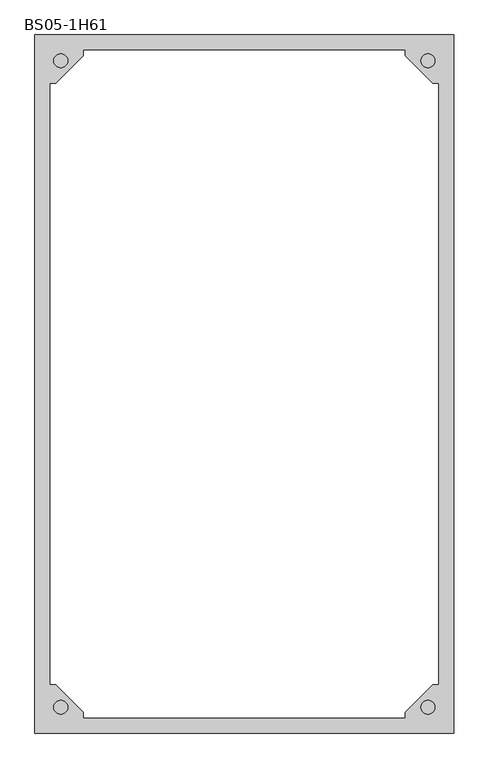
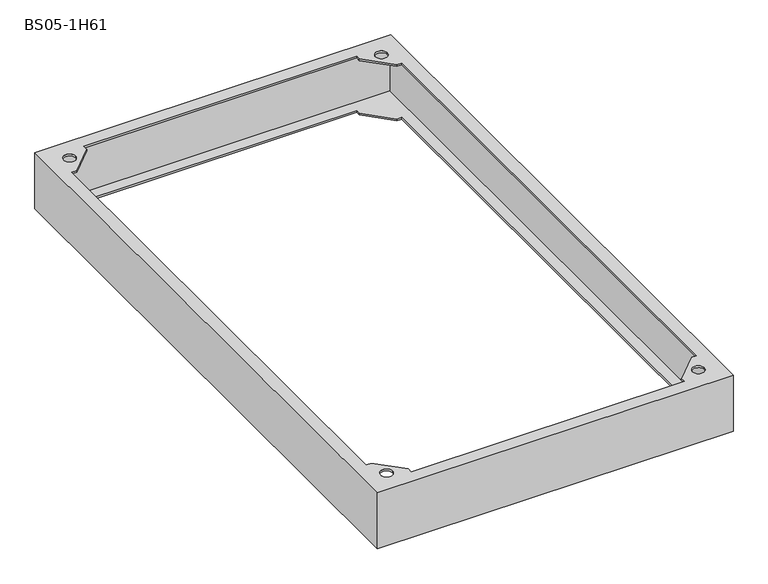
"""IFC4 building model written with IfcOpenShell, lengths in millimetres: proxy geometry, Цоколь для напольных шкафов : BS05-1H61."""

from ifc_helpers import new_model, si_unit, frame, origin, place, context, project, spatial, polyline, circle_curve, source, transform, mapped, element, save
from ifc_brep_helpers import plane_surface, revolved_surface, advanced_brep


def bs05_1h61_d823f380(model_context):
    return source(origin(), model_context, "Body", "AdvancedBrep", [
        advanced_brep(
        [(300.0, -500.0, 100.0), (300.0, -500.0, 97.0), (300.0, -500.0, 3.0), (300.0, -500.0, 0.0), (300.0, 500.0, 0.0), (300.0, 500.0, 3.0), (300.0, 500.0, 97.0), (300.0, 500.0, 100.0), (278.0, 430.0, 0.0), (278.0, -430.0, 0.0), (278.0, -430.0, 3.0), (278.0, 430.0, 3.0), (297.0, 497.0, 97.0), (297.0, 497.0, 3.0), (297.0, -497.0, 3.0), (297.0, -497.0, 97.0), (278.0, 430.0, 97.0), (278.0, -430.0, 97.0), (278.0, -430.0, 100.0), (278.0, 430.0, 100.0), (-300.0, -500.0, 100.0), (-300.0, -500.0, 97.0), (-300.0, -500.0, 3.0), (-300.0, -500.0, 0.0), (230.0, -478.0, 0.0), (-230.0, -478.0, 0.0), (-230.0, -478.0, 3.0), (230.0, -478.0, 3.0), (-297.0, -497.0, 3.0), (-297.0, -497.0, 97.0), (230.0, -478.0, 97.0), (-230.0, -478.0, 97.0), (-230.0, -478.0, 100.0), (230.0, -478.0, 100.0), (-300.0, 500.0, 100.0), (-300.0, 500.0, 97.0), (-300.0, 500.0, 3.0), (-300.0, 500.0, 0.0), (-278.0, -430.0, 0.0), (-278.0, 430.0, 0.0), (-278.0, 430.0, 3.0), (-278.0, -430.0, 3.0), (-297.0, 497.0, 3.0), (-297.0, 497.0, 97.0), (-278.0, -430.0, 97.0), (-278.0, 430.0, 97.0), (-278.0, 430.0, 100.0), (-278.0, -430.0, 100.0), (-230.0, -470.0, 100.0), (-270.0, -430.0, 100.0), (-270.0, 430.0, 100.0), (-230.0, 470.0, 100.0), (-230.0, 478.0, 100.0), (230.0, 478.0, 100.0), (230.0, 470.0, 100.0), (270.0, 430.0, 100.0), (270.0, -430.0, 100.0), (230.0, -470.0, 100.0), (-252.9289322, -462.9289322, 100.0), (-272.9289322, -462.9289322, 100.0), (272.9289322, -462.9289322, 100.0), (252.9289322, -462.9289322, 100.0), (-252.9289322, 462.9289322, 100.0), (-272.9289322, 462.9289322, 100.0), (272.9289322, 462.9289322, 100.0), (252.9289322, 462.9289322, 100.0), (270.0, 430.0, 0.0), (230.0, 470.0, 0.0), (230.0, 478.0, 0.0), (-230.0, 478.0, 0.0), (-230.0, 470.0, 0.0), (-270.0, 430.0, 0.0), (-270.0, -430.0, 0.0), (-230.0, -470.0, 0.0), (230.0, -470.0, 0.0), (270.0, -430.0, 0.0), (230.0, 478.0, 3.0), (-230.0, 478.0, 3.0), (270.0, -430.0, 3.0), (230.0, -470.0, 3.0), (-230.0, -470.0, 3.0), (-270.0, -430.0, 3.0), (-270.0, 430.0, 3.0), (-230.0, 470.0, 3.0), (230.0, 470.0, 3.0), (270.0, 430.0, 3.0), (-270.0, -430.0, 97.0), (-230.0, -470.0, 97.0), (230.0, -470.0, 97.0), (270.0, -430.0, 97.0), (270.0, 430.0, 97.0), (230.0, 470.0, 97.0), (230.0, 478.0, 97.0), (-230.0, 478.0, 97.0), (-230.0, 470.0, 97.0), (-270.0, 430.0, 97.0), (-252.9289322, -462.9289322, 97.0), (-272.9289322, -462.9289322, 97.0), (272.9289322, -462.9289322, 97.0), (252.9289322, -462.9289322, 97.0), (-252.9289322, 462.9289322, 97.0), (-272.9289322, 462.9289322, 97.0), (272.9289322, 462.9289322, 97.0), (252.9289322, 462.9289322, 97.0)],
        [
            (0, 1),
            (1, 2),
            (2, 3),
            (3, 4),
            (4, 5),
            (5, 6),
            (6, 7),
            (7, 0),
            (8, 9),
            (9, 10),
            (10, 11),
            (11, 8),
            (12, 13),
            (13, 14),
            (14, 15),
            (15, 12),
            (16, 17),
            (17, 18),
            (18, 19),
            (19, 16),
            (0, 20),
            (20, 21),
            (21, 22),
            (22, 23),
            (23, 3),
            (24, 25),
            (25, 26),
            (26, 27),
            (27, 24),
            (14, 28),
            (28, 29),
            (29, 15),
            (30, 31),
            (31, 32),
            (32, 33),
            (33, 30),
            (20, 34),
            (34, 35),
            (35, 36),
            (36, 37),
            (37, 23),
            (38, 39),
            (39, 40),
            (40, 41),
            (41, 38),
            (28, 42),
            (42, 43),
            (43, 29),
            (44, 45),
            (45, 46),
            (46, 47),
            (47, 44),
            (7, 34),
            (48, 49),
            (49, 47),
            (46, 50),
            (50, 51),
            (51, 52),
            (52, 53),
            (53, 54),
            (54, 55),
            (55, 19),
            (18, 56),
            (56, 57),
            (57, 33),
            (32, 48),
            (58, 59, circle_curve(frame((-262.9289322, -462.9289322, 100.0), z_axis=(0.0, 0.0, -1.0), x_axis=(-1.0, 0.0, 0.0)), 10.0)),
            (59, 58, circle_curve(frame((-262.9289322, -462.9289322, 100.0), z_axis=(0.0, 0.0, -1.0), x_axis=(-1.0, 0.0, 0.0)), 10.0)),
            (60, 61, circle_curve(frame((262.9289322, -462.9289322, 100.0), z_axis=(0.0, 0.0, -1.0), x_axis=(-1.0, 0.0, 0.0)), 10.0)),
            (61, 60, circle_curve(frame((262.9289322, -462.9289322, 100.0), z_axis=(0.0, 0.0, -1.0), x_axis=(-1.0, 0.0, 0.0)), 10.0)),
            (62, 63, circle_curve(frame((-262.9289322, 462.9289322, 100.0), z_axis=(0.0, 0.0, -1.0), x_axis=(-1.0, 0.0, 0.0)), 10.0)),
            (63, 62, circle_curve(frame((-262.9289322, 462.9289322, 100.0), z_axis=(0.0, 0.0, -1.0), x_axis=(-1.0, 0.0, 0.0)), 10.0)),
            (64, 65, circle_curve(frame((262.9289322, 462.9289322, 100.0), z_axis=(0.0, 0.0, -1.0), x_axis=(-1.0, 0.0, 0.0)), 10.0)),
            (65, 64, circle_curve(frame((262.9289322, 462.9289322, 100.0), z_axis=(0.0, 0.0, -1.0), x_axis=(-1.0, 0.0, 0.0)), 10.0)),
            (4, 37),
            (8, 66),
            (66, 67),
            (67, 68),
            (68, 69),
            (69, 70),
            (70, 71),
            (71, 39),
            (38, 72),
            (72, 73),
            (73, 25),
            (24, 74),
            (74, 75),
            (75, 9),
            (68, 76),
            (76, 77),
            (77, 69),
            (13, 42),
            (10, 78),
            (78, 79),
            (79, 27),
            (26, 80),
            (80, 81),
            (81, 41),
            (40, 82),
            (82, 83),
            (83, 77),
            (76, 84),
            (84, 85),
            (85, 11),
            (12, 43),
            (86, 87),
            (87, 31),
            (30, 88),
            (88, 89),
            (89, 17),
            (16, 90),
            (90, 91),
            (91, 92),
            (92, 93),
            (93, 94),
            (94, 95),
            (95, 45),
            (44, 86),
            (96, 97, circle_curve(frame((-262.9289322, -462.9289322, 97.0), z_axis=(0.0, 0.0, 1.0), x_axis=(-1.0, 0.0, 0.0)), 10.0)),
            (97, 96, circle_curve(frame((-262.9289322, -462.9289322, 97.0), z_axis=(0.0, 0.0, 1.0), x_axis=(-1.0, 0.0, 0.0)), 10.0)),
            (98, 99, circle_curve(frame((262.9289322, -462.9289322, 97.0), z_axis=(0.0, 0.0, 1.0), x_axis=(-1.0, 0.0, 0.0)), 10.0)),
            (99, 98, circle_curve(frame((262.9289322, -462.9289322, 97.0), z_axis=(0.0, 0.0, 1.0), x_axis=(-1.0, 0.0, 0.0)), 10.0)),
            (100, 101, circle_curve(frame((-262.9289322, 462.9289322, 97.0), z_axis=(0.0, 0.0, 1.0), x_axis=(-1.0, 0.0, 0.0)), 10.0)),
            (101, 100, circle_curve(frame((-262.9289322, 462.9289322, 97.0), z_axis=(0.0, 0.0, 1.0), x_axis=(-1.0, 0.0, 0.0)), 10.0)),
            (102, 103, circle_curve(frame((262.9289322, 462.9289322, 97.0), z_axis=(0.0, 0.0, 1.0), x_axis=(-1.0, 0.0, 0.0)), 10.0)),
            (103, 102, circle_curve(frame((262.9289322, 462.9289322, 97.0), z_axis=(0.0, 0.0, 1.0), x_axis=(-1.0, 0.0, 0.0)), 10.0)),
            (52, 93),
            (92, 53),
            (87, 48),
            (86, 49),
            (89, 56),
            (88, 57),
            (95, 50),
            (94, 51),
            (91, 54),
            (90, 55),
            (58, 96),
            (97, 59),
            (60, 98),
            (99, 61),
            (62, 100),
            (101, 63),
            (64, 102),
            (103, 65),
            (73, 80),
            (72, 81),
            (75, 78),
            (74, 79),
            (71, 82),
            (70, 83),
            (67, 84),
            (66, 85),
        ],
        [
            plane_surface(frame((300.0, 500.0, 100.0), z_axis=(1.0, 0.0, 0.0), x_axis=(0.0, -1.0, 0.0))),
            plane_surface(frame((278.0, 478.0, 0.0), z_axis=(-1.0, 0.0, 0.0), x_axis=(0.0, -1.0, 0.0))),
            plane_surface(frame((297.0, 497.0, 3.0), z_axis=(-1.0, 0.0, 0.0), x_axis=(0.0, -1.0, 0.0))),
            plane_surface(frame((278.0, 478.0, 97.0), z_axis=(-1.0, 0.0, 0.0), x_axis=(0.0, -1.0, 0.0))),
            plane_surface(frame((300.0, -500.0, 100.0), z_axis=(0.0, -1.0, 0.0), x_axis=(-1.0, 0.0, 0.0))),
            plane_surface(frame((278.0, -478.0, 0.0), z_axis=(0.0, 1.0, 0.0), x_axis=(-1.0, 0.0, 0.0))),
            plane_surface(frame((297.0, -497.0, 3.0), z_axis=(0.0, 1.0, 0.0), x_axis=(-1.0, 0.0, 0.0))),
            plane_surface(frame((278.0, -478.0, 97.0), z_axis=(0.0, 1.0, 0.0), x_axis=(-1.0, 0.0, 0.0))),
            plane_surface(frame((-300.0, -500.0, 100.0), z_axis=(-1.0, 0.0, 0.0), x_axis=(0.0, 1.0, 0.0))),
            plane_surface(frame((-278.0, -478.0, 0.0), z_axis=(1.0, 0.0, 0.0), x_axis=(0.0, 1.0, 0.0))),
            plane_surface(frame((-297.0, -497.0, 3.0), z_axis=(1.0, 0.0, 0.0), x_axis=(0.0, 1.0, 0.0))),
            plane_surface(frame((-278.0, -478.0, 97.0), z_axis=(1.0, 0.0, 0.0), x_axis=(0.0, 1.0, 0.0))),
            plane_surface(frame((-278.0, 478.0, 100.0), z_axis=(0.0, 0.0, 1.0), x_axis=(1.0, 0.0, 0.0))),
            plane_surface(frame((-300.0, 500.0, 100.0), z_axis=(0.0, 1.0, 0.0), x_axis=(1.0, 0.0, 0.0))),
            plane_surface(frame((-300.0, 500.0, 0.0), z_axis=(0.0, 0.0, -1.0), x_axis=(1.0, 0.0, 0.0))),
            plane_surface(frame((-278.0, 478.0, 0.0), z_axis=(0.0, -1.0, 0.0), x_axis=(1.0, 0.0, 0.0))),
            plane_surface(frame((-278.0, 478.0, 3.0), z_axis=(0.0, 0.0, 1.0), x_axis=(1.0, 0.0, 0.0))),
            plane_surface(frame((-297.0, 497.0, 3.0), z_axis=(0.0, -1.0, 0.0), x_axis=(1.0, 0.0, 0.0))),
            plane_surface(frame((-297.0, 497.0, 97.0), z_axis=(0.0, 0.0, -1.0), x_axis=(1.0, 0.0, 0.0))),
            plane_surface(frame((-278.0, 478.0, 97.0), z_axis=(0.0, -1.0, 0.0), x_axis=(1.0, 0.0, 0.0))),
            plane_surface(frame((-230.0, -500.0, 100.0), z_axis=(1.0, 0.0, 0.0), x_axis=(0.0, 0.0, -1.0))),
            plane_surface(frame((-230.0, -470.0, 100.0), z_axis=(0.7071067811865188, 0.7071067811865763, 0.0), x_axis=(0.0, 0.0, -1.0))),
            plane_surface(frame((-270.0, -430.0, 100.0), z_axis=(0.0, 1.0, 0.0), x_axis=(0.0, 0.0, -1.0))),
            plane_surface(frame((300.0, -430.0, 100.0), z_axis=(0.0, 1.0, 0.0), x_axis=(0.0, 0.0, -1.0))),
            plane_surface(frame((270.0, -430.0, 100.0), z_axis=(-0.7071067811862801, 0.7071067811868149, 0.0), x_axis=(0.0, 0.0, -1.0))),
            plane_surface(frame((230.0, -470.0, 100.0), z_axis=(-1.0, 0.0, 0.0), x_axis=(0.0, 0.0, -1.0))),
            plane_surface(frame((-300.0, 430.0, 100.0), z_axis=(0.0, -1.0, 0.0), x_axis=(0.0, 0.0, -1.0))),
            plane_surface(frame((-270.0, 430.0, 100.0), z_axis=(0.7071067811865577, -0.7071067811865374, 0.0), x_axis=(0.0, 0.0, -1.0))),
            plane_surface(frame((-230.0, 470.0, 100.0), z_axis=(1.0, 0.0, 0.0), x_axis=(0.0, 0.0, -1.0))),
            plane_surface(frame((230.0, 500.0, 100.0), z_axis=(-1.0, 0.0, 0.0), x_axis=(0.0, 0.0, -1.0))),
            plane_surface(frame((230.0, 470.0, 100.0), z_axis=(-0.7071067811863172, -0.7071067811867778, 0.0), x_axis=(0.0, 0.0, -1.0))),
            plane_surface(frame((270.0, 430.0, 100.0), z_axis=(0.0, -1.0, 0.0), x_axis=(0.0, 0.0, -1.0))),
            revolved_surface(polyline([(-272.9289322, -462.9289322, 97.0), (-272.9289322, -462.9289322, 100.0)]), (-262.9289322, -462.9289322, 100.0), (0.0, 0.0, -1.0)),
            revolved_surface(polyline([(252.92893220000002, -462.9289322, 97.0), (252.92893220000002, -462.9289322, 100.0)]), (262.9289322, -462.9289322, 100.0), (0.0, 0.0, -1.0)),
            revolved_surface(polyline([(-272.9289322, 462.9289322, 97.0), (-272.9289322, 462.9289322, 100.0)]), (-262.9289322, 462.9289322, 100.0), (0.0, 0.0, -1.0)),
            revolved_surface(polyline([(252.92893220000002, 462.9289322, 97.0), (252.92893220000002, 462.9289322, 100.0)]), (262.9289322, 462.9289322, 100.0), (0.0, 0.0, -1.0)),
            plane_surface(frame((-230.0, -500.0, 3.0), z_axis=(1.0, 0.0, 0.0), x_axis=(0.0, 0.0, -1.0))),
            plane_surface(frame((-230.0, -470.0, 3.0), z_axis=(0.7071067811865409, 0.7071067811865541, 0.0), x_axis=(0.0, 0.0, -1.0))),
            plane_surface(frame((-270.0, -430.0, 3.0), z_axis=(0.0, 1.0, 0.0), x_axis=(0.0, 0.0, -1.0))),
            plane_surface(frame((300.0, -430.0, 3.0), z_axis=(0.0, 1.0, 0.0), x_axis=(0.0, 0.0, -1.0))),
            plane_surface(frame((270.0, -430.0, 3.0), z_axis=(-0.7071067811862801, 0.7071067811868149, 0.0), x_axis=(0.0, 0.0, -1.0))),
            plane_surface(frame((230.0, -470.0, 3.0), z_axis=(-1.0, 0.0, 0.0), x_axis=(0.0, 0.0, -1.0))),
            plane_surface(frame((-300.0, 430.0, 3.0), z_axis=(0.0, -1.0, 0.0), x_axis=(0.0, 0.0, -1.0))),
            plane_surface(frame((-270.0, 430.0, 3.0), z_axis=(0.7071067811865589, -0.7071067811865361, 0.0), x_axis=(0.0, 0.0, -1.0))),
            plane_surface(frame((-230.0, 470.0, 3.0), z_axis=(1.0, 0.0, 0.0), x_axis=(0.0, 0.0, -1.0))),
            plane_surface(frame((230.0, 500.0, 3.0), z_axis=(-1.0, 0.0, 0.0), x_axis=(0.0, 0.0, -1.0))),
            plane_surface(frame((230.0, 470.0, 3.0), z_axis=(-0.7071067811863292, -0.7071067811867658, 0.0), x_axis=(0.0, 0.0, -1.0))),
            plane_surface(frame((270.0, 430.0, 3.0), z_axis=(0.0, -1.0, 0.0), x_axis=(0.0, 0.0, -1.0))),
        ],
        [
            (0, [[1, 2, 3, 4, 5, 6, 7, 8]]),
            (1, [[9, 10, 11, 12]]),
            (2, [[13, 14, 15, 16]]),
            (3, [[17, 18, 19, 20]]),
            (4, [[-1, 21, 22, 23, 24, 25, -3, -2]]),
            (5, [[26, 27, 28, 29]]),
            (6, [[-15, 30, 31, 32]]),
            (7, [[33, 34, 35, 36]]),
            (8, [[-22, 37, 38, 39, 40, 41, -24, -23]]),
            (9, [[42, 43, 44, 45]]),
            (10, [[-31, 46, 47, 48]]),
            (11, [[49, 50, 51, 52]]),
            (12, [[-8, 53, -37, -21], [54, 55, -51, 56, 57, 58, 59, 60, 61, 62, -19, 63, 64, 65, -35, 66], [67, 68], [69, 70], [71, 72], [73, 74]]),
            (13, [[-38, -53, -7, -6, -5, 75, -40, -39]]),
            (14, [[-4, -25, -41, -75], [-9, 76, 77, 78, 79, 80, 81, 82, -42, 83, 84, 85, -26, 86, 87, 88]]),
            (15, [[-79, 89, 90, 91]]),
            (16, [[-14, 92, -46, -30], [-11, 93, 94, 95, -28, 96, 97, 98, -44, 99, 100, 101, -90, 102, 103, 104]]),
            (17, [[-92, -13, 105, -47]]),
            (18, [[-32, -48, -105, -16], [106, 107, -33, 108, 109, 110, -17, 111, 112, 113, 114, 115, 116, 117, -49, 118], [119, 120], [121, 122], [123, 124], [125, 126]]),
            (19, [[-59, 127, -114, 128]]),
            (20, [[129, -66, -34, -107]]),
            (21, [[-54, -129, -106, 130]]),
            (22, [[-130, -118, -52, -55]]),
            (23, [[131, -63, -18, -110]]),
            (24, [[-64, -131, -109, 132]]),
            (25, [[-132, -108, -36, -65]]),
            (26, [[133, -56, -50, -117]]),
            (27, [[-57, -133, -116, 134]]),
            (28, [[-134, -115, -127, -58]]),
            (29, [[135, -60, -128, -113]]),
            (30, [[-61, -135, -112, 136]]),
            (31, [[-136, -111, -20, -62]]),
            (32, [[-67, 137, -120, 138]]),
            (32, [[-68, -138, -119, -137]]),
            (33, [[-69, 139, -122, 140]]),
            (33, [[-70, -140, -121, -139]]),
            (34, [[-71, 141, -124, 142]]),
            (34, [[-72, -142, -123, -141]]),
            (35, [[-73, 143, -126, 144]]),
            (35, [[-74, -144, -125, -143]]),
            (36, [[145, -96, -27, -85]]),
            (37, [[-97, -145, -84, 146]]),
            (38, [[-146, -83, -45, -98]]),
            (39, [[147, -93, -10, -88]]),
            (40, [[-94, -147, -87, 148]]),
            (41, [[-148, -86, -29, -95]]),
            (42, [[149, -99, -43, -82]]),
            (43, [[-100, -149, -81, 150]]),
            (44, [[-150, -80, -91, -101]]),
            (45, [[151, -102, -89, -78]]),
            (46, [[-103, -151, -77, 152]]),
            (47, [[-152, -76, -12, -104]]),
        ],
    ),
    ])


if __name__ == "__main__":
    model = new_model("IFC4")
    model_context = context("Model", 3, world=origin())
    ifc_project = project(units=[si_unit("LENGTHUNIT", "METRE", prefix="MILLI")], contexts=[model_context])
    site = spatial("IfcSite", under=ifc_project)
    building = spatial("IfcBuilding", under=site)
    placement = place(None, origin())
    bs05_1h61_shape = bs05_1h61_d823f380(model_context)
    element("IfcBuildingElementProxy", 1, Name="Цоколь для напольных шкафов : BS05-1H61", ObjectType="Цоколь для напольных шкафов : BS05-1H61", at=placement, inside=building, context=model_context, shape_type="MappedRepresentation", body=[
        mapped(bs05_1h61_shape, transform((0.0, 0.0, 0.0), x_axis=(1.0, 0.0, 0.0), y_axis=(0.0, 1.0, 0.0), z_axis=(0.0, 0.0, 1.0))),
    ])
    save(model, "model.ifc")
